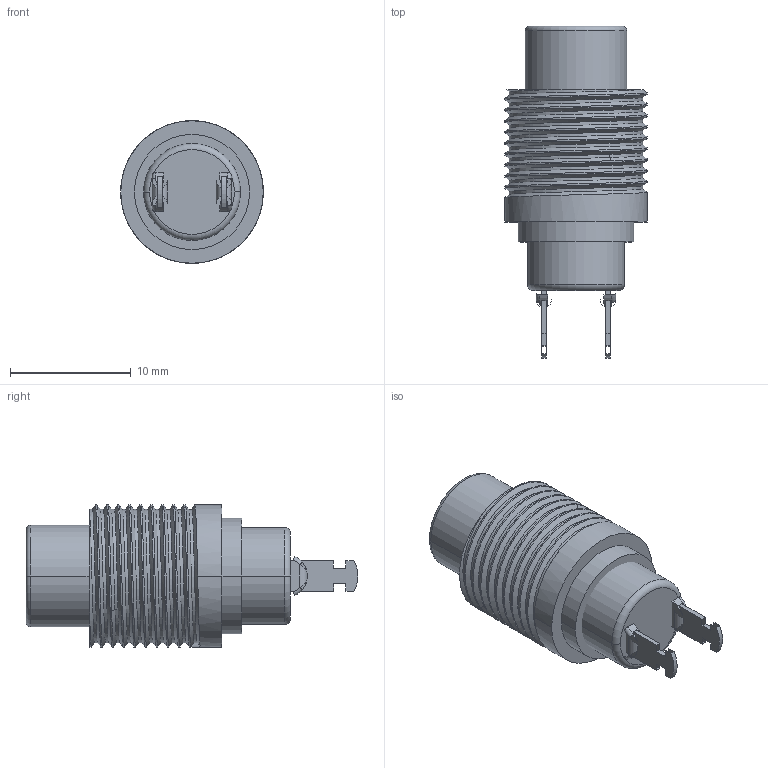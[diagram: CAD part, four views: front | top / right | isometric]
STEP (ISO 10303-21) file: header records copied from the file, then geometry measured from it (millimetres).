
FILE_DESCRIPTION((''),'2;1');
FILE_NAME('8532TZ_SW0001_PRT','2011-11-03T',('iquinn'),(''),'PRO/ENGINEER BY PARAMETRIC TECHNOLOGY CORPORATION, 2011080','PRO/ENGINEER BY PARAMETRIC TECHNOLOGY CORPORATION, 2011080','');
FILE_SCHEMA(('AUTOMOTIVE_DESIGN_CC2 { 1 2 10303 214 -1 1 5 2 }'));
Length unit declared in the file: inch
Products named in the file (1): 8532TZ_SW0001_PRT
Bounding box: 11.79 x 27.45 x 11.79 mm (x, y, z)
Surface area: 1382.3 mm2 (no closed solid volume)
Topology: 0 solids, 14 shells, 69 faces, 255 edges, 192 vertices
Faces by surface type: cylinder 35, plane 17, bspline 9, torus 8
Entity records: 6845 total; most frequent: CARTESIAN_POINT 4819, ORIENTED_EDGE 378, DIRECTION 365, EDGE_CURVE 255, VERTEX_POINT 192, VECTOR 131, LINE 131, AXIS2_PLACEMENT_3D 117
